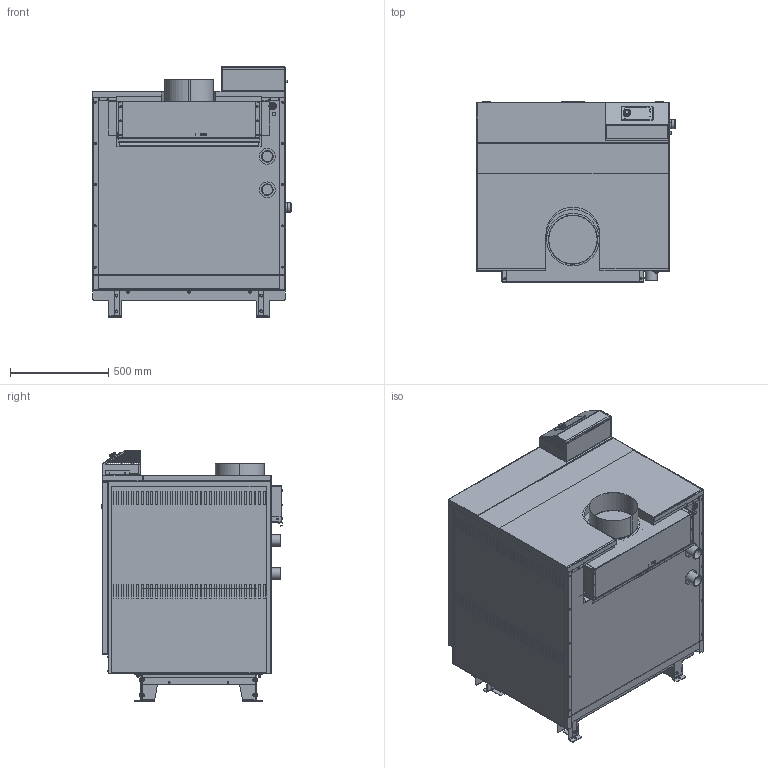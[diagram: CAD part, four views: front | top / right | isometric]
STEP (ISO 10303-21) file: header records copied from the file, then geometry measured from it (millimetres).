
FILE_DESCRIPTION(('STEP AP203'), '1');
FILE_NAME('ÊÅÂÌ.3107.00.00.000-01 ÑÁ Êîòåë ñòàëüíîé âîäîãðåéíûé TITAN V Ì', '2026-07-22T09:05:32', (''), (''), 'ASCON STEP Converter 1.6', 'ASCON Math Kernel', '');
FILE_SCHEMA(('CONFIG_CONTROL_DESIGN'));
Length unit declared in the file: millimetre
Products named in the file (1): КЕВМ.3107.00.00.000-01 СБ
Bounding box: 1011 x 919.43 x 1275 mm (x, y, z)
Volume: 758107067.5 mm3; surface area: 18685695.9 mm2
Topology: 10 solids, 10 shells, 5535 faces, 14540 edges, 9291 vertices
Faces by surface type: plane 3425, cylinder 1446, bspline 428, cone 107, torus 89, sphere 38, extrusion 2
Full cylindrical faces by diameter (mm): 1.5 x6, 2 x3, 2.45 x14, 2.5 x6, 3.5 x21, 4 x36, 4.2 x42, 4.5 x36, 4.7 x1, 5 x4, 5.2 x4, 6 x2, 6.4 x1, 7 x2, 8 x32, 8.5 x18, 9 x14, 10 x41, 10.421 x1, 12 x1, 14 x1, 14.795 x1, 15 x1, 16 x14, 18 x1, 19.169 x1, 23.542 x1, 24.5 x2, 27.916 x1, 30.664 x1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
Entity records: 201527 total; most frequent: CARTESIAN_POINT 65709, ORIENTED_EDGE 28012, DIRECTION 26743, EDGE_CURVE 14006, VECTOR 9355, LINE 9353, VERTEX_POINT 9290, AXIS2_PLACEMENT_3D 8694
